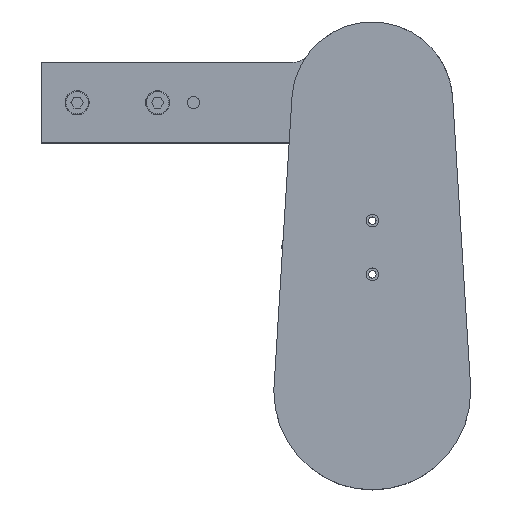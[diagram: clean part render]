
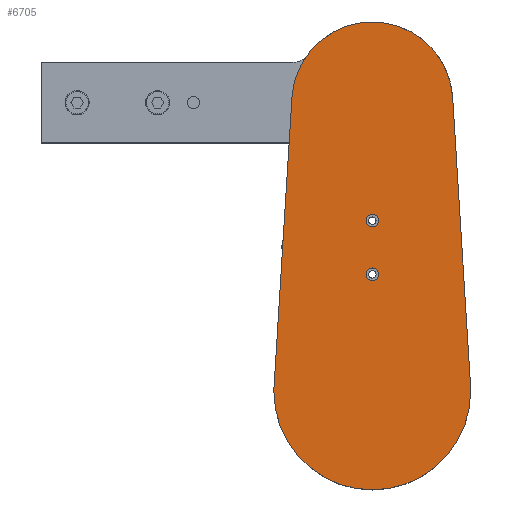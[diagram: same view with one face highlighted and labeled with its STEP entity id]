
A CAD part, top view. The second image highlights one B-rep face of the part: STEP entity #6705.
In plain terms, the highlighted planar face has unit normal (0, 0, 1).
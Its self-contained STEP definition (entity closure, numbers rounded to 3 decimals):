
#569 = ORIENTED_EDGE ( 'NONE', *, *, #13444, .F. ) ;
#1641 = CARTESIAN_POINT ( 'NONE',  ( -54.894, -158.094, 204. ) ) ;
#1647 = CARTESIAN_POINT ( 'NONE',  ( -3.5, -66., 204. ) ) ;
#1679 = CARTESIAN_POINT ( 'NONE',  ( 55., -161.5, 204. ) ) ;
#1686 = CARTESIAN_POINT ( 'NONE',  ( -55., -161.5, 204. ) ) ;
#1783 = CARTESIAN_POINT ( 'NONE',  ( 3.5, -96., 204. ) ) ;
#1849 = CARTESIAN_POINT ( 'NONE',  ( 3.5, -66., 204. ) ) ;
#1907 = CARTESIAN_POINT ( 'NONE',  ( -3.5, -96., 204. ) ) ;
#2140 = CARTESIAN_POINT ( 'NONE',  ( 44.914, 2.786, 204. ) ) ;
#2142 = CARTESIAN_POINT ( 'NONE',  ( 54.894, -158.094, 204. ) ) ;
#2154 = CARTESIAN_POINT ( 'NONE',  ( -44.914, 2.786, 204. ) ) ;
#2901 = EDGE_LOOP ( 'NONE', ( #5852, #9150 ) ) ;
#2943 = EDGE_LOOP ( 'NONE', ( #5902, #569, #10173, #5912, #10145, #10167 ) ) ;
#3008 = VERTEX_POINT ( 'NONE', #2142 ) ;
#3009 = VERTEX_POINT ( 'NONE', #2154 ) ;
#3011 = VERTEX_POINT ( 'NONE', #2140 ) ;
#3064 = VERTEX_POINT ( 'NONE', #1783 ) ;
#3130 = VERTEX_POINT ( 'NONE', #1686 ) ;
#3140 = VERTEX_POINT ( 'NONE', #1679 ) ;
#3173 = VERTEX_POINT ( 'NONE', #1647 ) ;
#3179 = VERTEX_POINT ( 'NONE', #1641 ) ;
#3975 = VERTEX_POINT ( 'NONE', #1849 ) ;
#3990 = VERTEX_POINT ( 'NONE', #1907 ) ;
#4423 = AXIS2_PLACEMENT_3D ( 'NONE', #6911, #6861, #6774 ) ;
#4484 = FACE_BOUND ( 'NONE', #12243, .T. ) ;
#4486 = FACE_OUTER_BOUND ( 'NONE', #2943, .T. ) ;
#4494 = FACE_BOUND ( 'NONE', #2901, .T. ) ;
#5852 = ORIENTED_EDGE ( 'NONE', *, *, #13167, .F. ) ;
#5902 = ORIENTED_EDGE ( 'NONE', *, *, #13337, .F. ) ;
#5912 = ORIENTED_EDGE ( 'NONE', *, *, #13315, .F. ) ;
#6010 = ORIENTED_EDGE ( 'NONE', *, *, #13356, .F. ) ;
#6490 = AXIS2_PLACEMENT_3D ( 'NONE', #10425, #10442, #10576 ) ;
#6494 = AXIS2_PLACEMENT_3D ( 'NONE', #10568, #10421, #10727 ) ;
#6504 = AXIS2_PLACEMENT_3D ( 'NONE', #10621, #10661, #10493 ) ;
#6519 = AXIS2_PLACEMENT_3D ( 'NONE', #10827, #10447, #10738 ) ;
#6521 = AXIS2_PLACEMENT_3D ( 'NONE', #10706, #10618, #10775 ) ;
#6572 = AXIS2_PLACEMENT_3D ( 'NONE', #10794, #10720, #10585 ) ;
#6705 = ADVANCED_FACE ( 'NONE', ( #4484, #4494, #4486 ), #6865, .F. ) ;
#6774 = DIRECTION ( 'NONE',  ( -1., 0., 0. ) ) ;
#6861 = DIRECTION ( 'NONE',  ( 0., 0., -1. ) ) ;
#6865 = PLANE ( 'NONE',  #4423 ) ;
#6911 = CARTESIAN_POINT ( 'NONE',  ( 0., 0., 204. ) ) ;
#7019 = AXIS2_PLACEMENT_3D ( 'NONE', #9644, #9678, #9543 ) ;
#7033 = AXIS2_PLACEMENT_3D ( 'NONE', #9646, #9654, #9655 ) ;
#8948 = CIRCLE ( 'NONE', #7019, 3.5 ) ;
#9150 = ORIENTED_EDGE ( 'NONE', *, *, #13344, .F. ) ;
#9162 = ORIENTED_EDGE ( 'NONE', *, *, #13353, .F. ) ;
#9543 = DIRECTION ( 'NONE',  ( -1., 0., 0. ) ) ;
#9644 = CARTESIAN_POINT ( 'NONE',  ( 0., -96., 204. ) ) ;
#9646 = CARTESIAN_POINT ( 'NONE',  ( 0., -161.5, 204. ) ) ;
#9654 = DIRECTION ( 'NONE',  ( 0., 0., -1. ) ) ;
#9655 = DIRECTION ( 'NONE',  ( -1., 0., 0. ) ) ;
#9678 = DIRECTION ( 'NONE',  ( 0., 0., 1. ) ) ;
#10145 = ORIENTED_EDGE ( 'NONE', *, *, #13318, .F. ) ;
#10167 = ORIENTED_EDGE ( 'NONE', *, *, #13333, .F. ) ;
#10173 = ORIENTED_EDGE ( 'NONE', *, *, #13216, .F. ) ;
#10421 = DIRECTION ( 'NONE',  ( 0., 0., 1. ) ) ;
#10425 = CARTESIAN_POINT ( 'NONE',  ( 0., 0., 204. ) ) ;
#10442 = DIRECTION ( 'NONE',  ( 0., 0., -1. ) ) ;
#10447 = DIRECTION ( 'NONE',  ( 0., 0., -1. ) ) ;
#10493 = DIRECTION ( 'NONE',  ( -1., 0., 0. ) ) ;
#10539 = DIRECTION ( 'NONE',  ( 0.062, 0.998, 0. ) ) ;
#10568 = CARTESIAN_POINT ( 'NONE',  ( 0., -66., 204. ) ) ;
#10576 = DIRECTION ( 'NONE',  ( -1., 0., 0. ) ) ;
#10585 = DIRECTION ( 'NONE',  ( -1., 0., 0. ) ) ;
#10618 = DIRECTION ( 'NONE',  ( 0., 0., -1. ) ) ;
#10621 = CARTESIAN_POINT ( 'NONE',  ( 0., -66., 204. ) ) ;
#10661 = DIRECTION ( 'NONE',  ( 0., 0., 1. ) ) ;
#10681 = CARTESIAN_POINT ( 'NONE',  ( -44.914, 2.786, 204. ) ) ;
#10706 = CARTESIAN_POINT ( 'NONE',  ( 0., -161.5, 204. ) ) ;
#10720 = DIRECTION ( 'NONE',  ( 0., 0., 1. ) ) ;
#10727 = DIRECTION ( 'NONE',  ( -1., 0., 0. ) ) ;
#10738 = DIRECTION ( 'NONE',  ( -1., 0., 0. ) ) ;
#10745 = DIRECTION ( 'NONE',  ( 0.062, -0.998, 0. ) ) ;
#10759 = CARTESIAN_POINT ( 'NONE',  ( 44.914, 2.786, 204. ) ) ;
#10775 = DIRECTION ( 'NONE',  ( -1., 0., 0. ) ) ;
#10794 = CARTESIAN_POINT ( 'NONE',  ( 0., -96., 204. ) ) ;
#10827 = CARTESIAN_POINT ( 'NONE',  ( 0., -161.5, 204. ) ) ;
#11017 = CIRCLE ( 'NONE', #7033, 55. ) ;
#11157 = CIRCLE ( 'NONE', #6519, 55. ) ;
#11163 = CIRCLE ( 'NONE', #6521, 55. ) ;
#11173 = LINE ( 'NONE', #10759, #11187 ) ;
#11187 = VECTOR ( 'NONE', #10745, 1000. ) ;
#11191 = CIRCLE ( 'NONE', #6490, 45. ) ;
#11200 = CIRCLE ( 'NONE', #6572, 3.5 ) ;
#11211 = CIRCLE ( 'NONE', #6494, 3.5 ) ;
#11214 = CIRCLE ( 'NONE', #6504, 3.5 ) ;
#11338 = LINE ( 'NONE', #10681, #11340 ) ;
#11340 = VECTOR ( 'NONE', #10539, 1000. ) ;
#12243 = EDGE_LOOP ( 'NONE', ( #6010, #9162 ) ) ;
#13167 = EDGE_CURVE ( 'NONE', #3990, #3064, #8948, .T. ) ;
#13216 = EDGE_CURVE ( 'NONE', #3130, #3179, #11017, .T. ) ;
#13315 = EDGE_CURVE ( 'NONE', #3140, #3130, #11157, .T. ) ;
#13318 = EDGE_CURVE ( 'NONE', #3008, #3140, #11163, .T. ) ;
#13333 = EDGE_CURVE ( 'NONE', #3011, #3008, #11173, .T. ) ;
#13337 = EDGE_CURVE ( 'NONE', #3009, #3011, #11191, .T. ) ;
#13344 = EDGE_CURVE ( 'NONE', #3064, #3990, #11200, .T. ) ;
#13353 = EDGE_CURVE ( 'NONE', #3975, #3173, #11211, .T. ) ;
#13356 = EDGE_CURVE ( 'NONE', #3173, #3975, #11214, .T. ) ;
#13444 = EDGE_CURVE ( 'NONE', #3179, #3009, #11338, .T. ) ;
